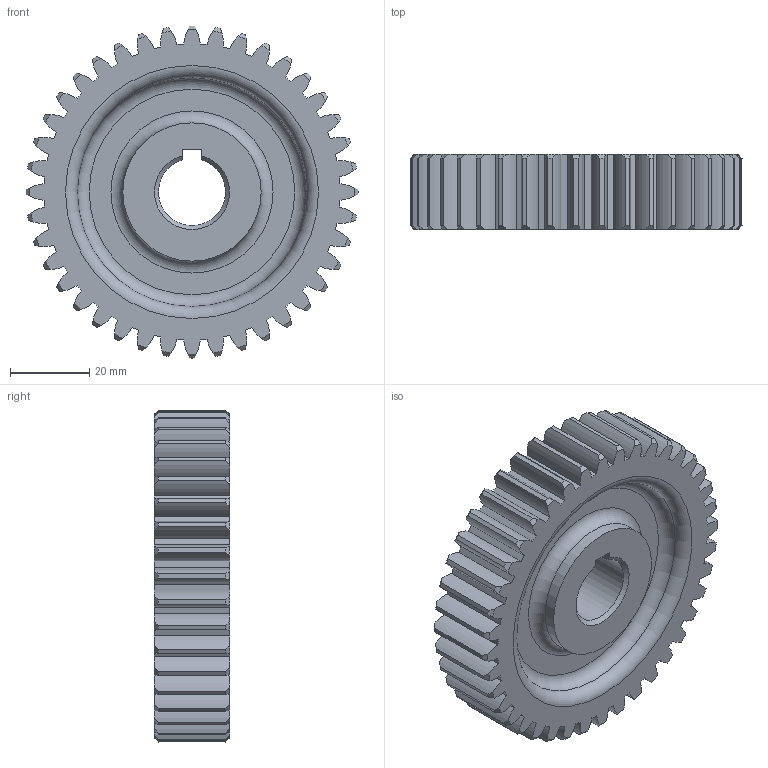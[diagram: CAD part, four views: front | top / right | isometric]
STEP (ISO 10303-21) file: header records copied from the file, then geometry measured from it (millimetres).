
FILE_DESCRIPTION(/* description */ (''),/* implementation_level */ '2;1');
FILE_NAME(/* name */ 'C:\Users\NET\Desktop\601105E1012\601105E1012-스퍼기어.stp',/* time_stamp */ '2020-11-21T11:16:41+09:00',/* author */ ('NET'),/* organization */ (''),/* preprocessor_version */ 'ST-DEVELOPER v15.2',/* originating_system */ 'Autodesk Inventor 2014',/* authorisation */ '');
FILE_SCHEMA (('AUTOMOTIVE_DESIGN { 1 0 10303 214 3 1 1 }'));
Length unit declared in the file: millimetre
Products named in the file (1): 스퍼어기어
Bounding box: 84 x 19 x 84 mm (x, y, z)
Volume: 70103.3 mm3; surface area: 22260.8 mm2
Topology: 1 solids, 1 shells, 260 faces, 758 edges, 504 vertices
Faces by surface type: cylinder 163, cone 82, plane 9, torus 6
Full cylindrical faces by diameter (mm): 35 x2
Entity records: 8967 total; most frequent: CARTESIAN_POINT 2003, DIRECTION 1524, ORIENTED_EDGE 1500, EDGE_CURVE 750, AXIS2_PLACEMENT_3D 677, VERTEX_POINT 504, CIRCLE 416, EDGE_LOOP 274
